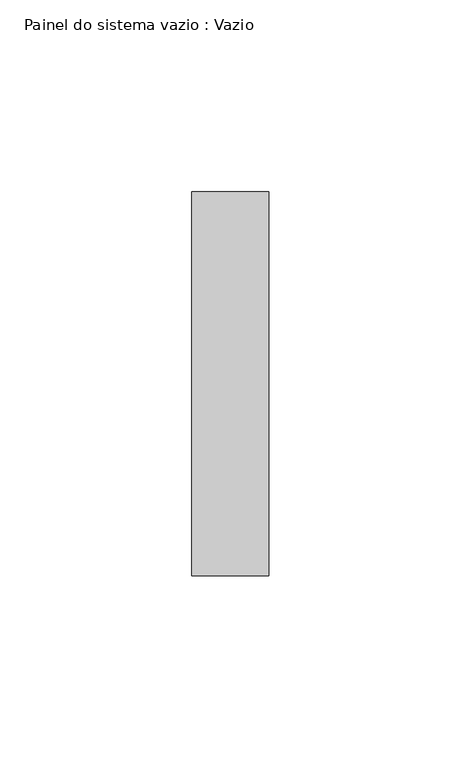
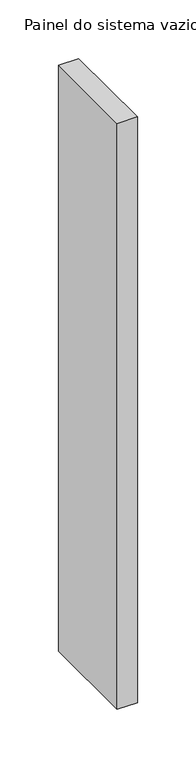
"""IFC4 building model written with IfcOpenShell, lengths in millimetres: plate geometry, Painel do sistema vazio : Vazio."""

from ifc_helpers import new_model, si_unit, origin, origin_with_axes, place, context, project, spatial, polyline, outline, extrude, source, transform, mapped, element, save


def painel_do_sistema_vazio_vazio_6ddfdf0a(model_context):
    return source(origin(), model_context, "Body", "SweptSolid", [
        extrude(outline(polyline([(10.0, -50.0), (-10.0, -50.0), (-10.0, 50.0), (10.0, 50.0), (10.0, -50.0)])), origin_with_axes(), (0.0, 0.0, 1.0), 610.0),
    ])


if __name__ == "__main__":
    model = new_model("IFC4")
    model_context = context("Model", 3, world=origin())
    ifc_project = project(units=[si_unit("LENGTHUNIT", "METRE", prefix="MILLI")], contexts=[model_context])
    site = spatial("IfcSite", under=ifc_project)
    building = spatial("IfcBuilding", under=site)
    placement = place(None, origin())
    painel_do_sistema_vazio_vazio_shape = painel_do_sistema_vazio_vazio_6ddfdf0a(model_context)
    element("IfcPlate", 1, ObjectType="Painel do sistema vazio : Vazio", at=placement, inside=building, context=model_context, shape_type="MappedRepresentation", body=[
        mapped(painel_do_sistema_vazio_vazio_shape, transform((0.0, 0.0, 0.0), x_axis=(1.0, 0.0, 0.0), y_axis=(0.0, 1.0, 0.0), z_axis=(0.0, 0.0, 1.0))),
    ])
    save(model, "model.ifc")
